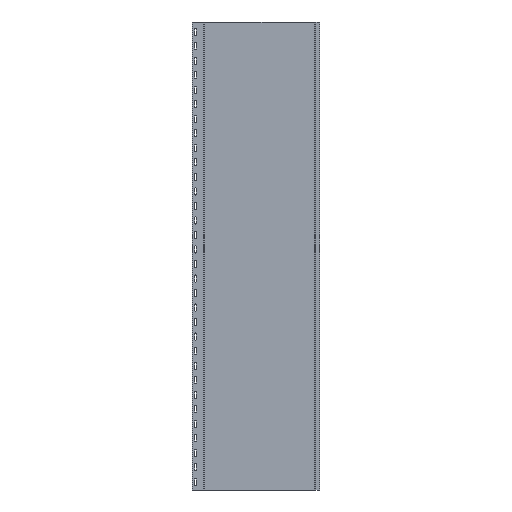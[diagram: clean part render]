
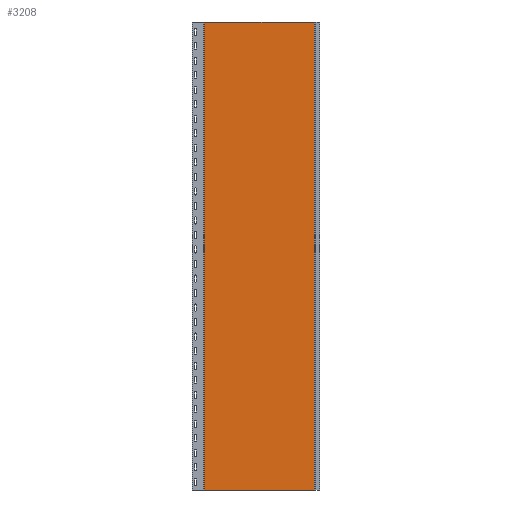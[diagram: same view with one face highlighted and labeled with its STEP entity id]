
A CAD part, left-side view. The second image highlights one B-rep face of the part: STEP entity #3208.
In plain terms, the highlighted planar face has unit normal (-1, 0, 0).
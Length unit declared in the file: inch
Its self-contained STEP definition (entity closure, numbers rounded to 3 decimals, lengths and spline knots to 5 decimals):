
#438=FACE_OUTER_BOUND('',#594,.T.);
#594=EDGE_LOOP('',(#2597,#2598,#2599,#2600));
#944=LINE('',#5278,#1254);
#945=LINE('',#5281,#1255);
#946=LINE('',#5283,#1256);
#947=LINE('',#5284,#1257);
#1254=VECTOR('',#4350,0.3937);
#1255=VECTOR('',#4353,0.3937);
#1256=VECTOR('',#4354,0.3937);
#1257=VECTOR('',#4355,0.3937);
#1565=VERTEX_POINT('',#5274);
#1566=VERTEX_POINT('',#5276);
#1567=VERTEX_POINT('',#5280);
#1568=VERTEX_POINT('',#5282);
#2004=EDGE_CURVE('',#1565,#1566,#944,.T.);
#2005=EDGE_CURVE('',#1567,#1565,#945,.T.);
#2006=EDGE_CURVE('',#1568,#1566,#946,.T.);
#2007=EDGE_CURVE('',#1567,#1568,#947,.T.);
#2597=ORIENTED_EDGE('',*,*,#2005,.T.);
#2598=ORIENTED_EDGE('',*,*,#2004,.T.);
#2599=ORIENTED_EDGE('',*,*,#2006,.F.);
#2600=ORIENTED_EDGE('',*,*,#2007,.F.);
#3062=PLANE('',#3516);
#3208=ADVANCED_FACE('',(#438),#3062,.T.);
#3516=AXIS2_PLACEMENT_3D('',#5279,#4351,#4352);
#4350=DIRECTION('',(0.,0.,1.));
#4351=DIRECTION('center_axis',(-1.,0.,0.));
#4352=DIRECTION('ref_axis',(0.,-1.,0.));
#4353=DIRECTION('',(0.,-1.,0.));
#4354=DIRECTION('',(0.,-1.,0.));
#4355=DIRECTION('',(0.,0.,1.));
#5274=CARTESIAN_POINT('',(1.86427,0.54201,0.));
#5276=CARTESIAN_POINT('',(1.86427,0.54201,48.344));
#5278=CARTESIAN_POINT('',(1.86427,0.54201,0.));
#5279=CARTESIAN_POINT('Origin',(1.86427,12.41327,0.));
#5280=CARTESIAN_POINT('',(1.86427,12.41327,0.));
#5281=CARTESIAN_POINT('',(1.86427,12.41327,0.));
#5282=CARTESIAN_POINT('',(1.86427,12.41327,48.344));
#5283=CARTESIAN_POINT('',(1.86427,12.41327,48.344));
#5284=CARTESIAN_POINT('',(1.86427,12.41327,0.));
